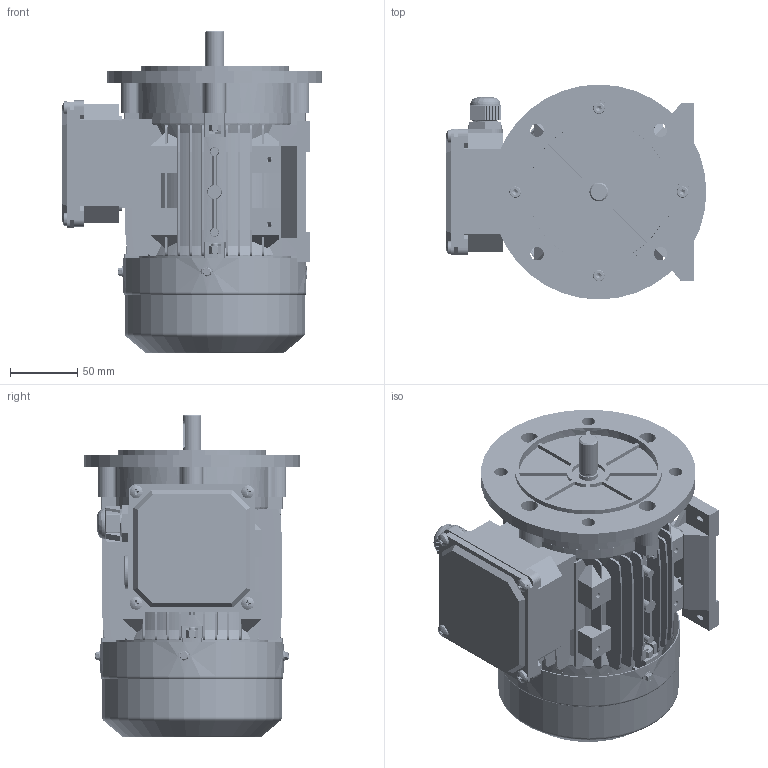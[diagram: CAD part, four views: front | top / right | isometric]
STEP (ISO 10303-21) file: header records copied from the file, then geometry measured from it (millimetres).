
FILE_DESCRIPTION (( 'STEP AP203' ), '1' );
FILE_NAME ('MS71M B35 3D蚾饜芞.STEP', '2024-08-06T06:12:21', ( 'User' ), ( 'China' ), 'SwSTEP 2.0', 'SolidWorks 2018', '' );
FILE_SCHEMA (( 'CONFIG_CONTROL_DESIGN' ));
Length unit declared in the file: millimetre
Products named in the file (23): hexagon socket head cap screw_as_AS 1420 - M5 x 25-S; 8.043.07101MS71菁褐; spring lock washers--normal type gb_GB_FASTENER_WASHER_SW 5; hexagon nut (grades c) as_AS 1112.3 C- M5-S; 8.014.07102MS71B5傷裔; hex nuts, style 1-grades ab gb_GB_FASTENER_NUT_SNAB1 M5-N; 8.306.07101MS71邧脯瑞欶; MS71M B35 3D蚾饜芞; 蚐猾25X14X4; hex washer head screw_as_AS-NZS 1427 HW - M4 x 6-N; 黑芛20X1.5; pan cross head screw_as_AS-NZS 1427 PC- M4 x 8-S; spring lock washers--normal type gb_GB_FASTENER_WASHER_SW 6; pan cross head screw_as_AS-NZS 1427 PC- M5 x 8-S; 8.034.07101MS71 S儂褲; hexagon socket head cap screws gb_GB_FASTENER_SCREWS_HSHCS M6X20-S; 蹟杶郋M20X1.5; 8.013.07102MS71綴傷裔; MS63-71諉盄碟菁釱; 蹟簸M20X1.5; 8.200.07101MS71 S蛌粣; MS63-71諉盄碟裔; hexagon socket head cap screws gb_GB_FASTENER_SCREWS_HSHCS M5X25-S
Assembly tree (51 placements, depth 2):
  MS71M B35 3D蚾饜芞
    8.034.07101MS71 S儂褲
    8.013.07102MS71綴傷裔
    8.200.07101MS71 S蛌粣
    hexagon socket head cap screw_as_AS 1420 - M5 x 25-S  x4
    hexagon nut (grades c) as_AS 1112.3 C- M5-S  x4
    8.306.07101MS71邧脯瑞欶
    hex washer head screw_as_AS-NZS 1427 HW - M4 x 6-N  x3
    pan cross head screw_as_AS-NZS 1427 PC- M4 x 8-S  x4
    pan cross head screw_as_AS-NZS 1427 PC- M5 x 8-S  x4
    蹟杶郋M20X1.5
    蹟簸M20X1.5
    hexagon socket head cap screws gb_GB_FASTENER_SCREWS_HSHCS M5X25-S  x4
    spring lock washers--normal type gb_GB_FASTENER_WASHER_SW 5  x4
    hex nuts, style 1-grades ab gb_GB_FASTENER_NUT_SNAB1 M5-N  x3
    蚐猾25X14X4
    黑芛20X1.5
    spring lock washers--normal type gb_GB_FASTENER_WASHER_SW 6  x4
    hexagon socket head cap screws gb_GB_FASTENER_SCREWS_HSHCS M6X20-S  x4
    MS63-71諉盄碟菁釱
    MS63-71諉盄碟裔
    8.043.07101MS71菁褐  x2
    8.014.07102MS71B5傷裔
Bounding box: 194 x 160 x 240.1 mm (x, y, z)
Volume: 736044.8 mm3; surface area: 508294 mm2
Topology: 51 solids, 60 shells, 7001 faces, 16655 edges, 9845 vertices
Faces by surface type: cone 2473, plane 2389, cylinder 1865, bspline 146, torus 112, sphere 16
Entity records: 141124 total; most frequent: CARTESIAN_POINT 44034, ORIENTED_EDGE 20302, DIRECTION 18557, EDGE_CURVE 10151, VERTEX_POINT 6426, AXIS2_PLACEMENT_3D 6328, VECTOR 5901, LINE 5901
